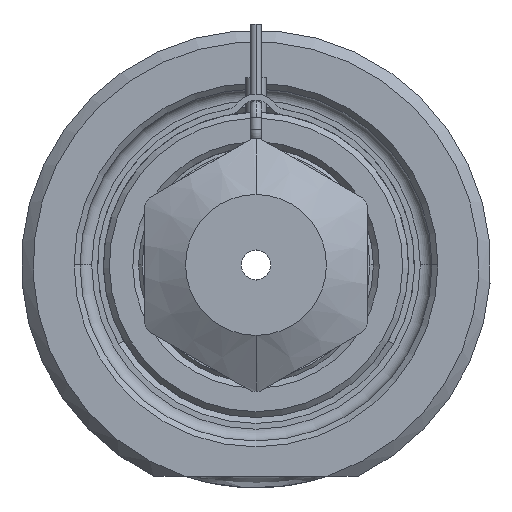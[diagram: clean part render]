
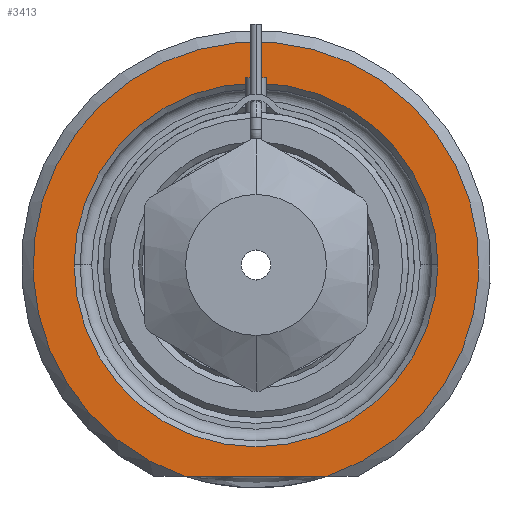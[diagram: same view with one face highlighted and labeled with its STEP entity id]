
A CAD part, front view. The second image highlights one B-rep face of the part: STEP entity #3413.
In plain terms, the highlighted planar face has unit normal (0, -1, 0).
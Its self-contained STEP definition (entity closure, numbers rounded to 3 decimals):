
#1=DIRECTION('',(1.,0.,0.));
#2=VECTOR('',#1,12.166);
#3=CARTESIAN_POINT('',(-6.083,0.,-18.));
#4=LINE('',#3,#2);
#5=CARTESIAN_POINT('',(0.,0.,0.));
#6=DIRECTION('',(0.,1.,0.));
#7=DIRECTION('',(-1.,0.,0.));
#8=AXIS2_PLACEMENT_3D('',#5,#6,#7);
#10=CARTESIAN_POINT('',(0.,0.,0.));
#11=DIRECTION('',(0.,1.,0.));
#12=DIRECTION('',(1.,0.,0.));
#13=AXIS2_PLACEMENT_3D('',#10,#11,#12);
#264=CARTESIAN_POINT('',(0.,0.,0.));
#265=DIRECTION('',(0.,-1.,0.));
#266=DIRECTION('',(0.32,0.,-0.947));
#267=AXIS2_PLACEMENT_3D('',#264,#265,#266);
#2857=CARTESIAN_POINT('',(-15.5,0.,0.));
#2858=CARTESIAN_POINT('',(15.5,0.,0.));
#2859=VERTEX_POINT('',#2857);
#2860=VERTEX_POINT('',#2858);
#2915=CARTESIAN_POINT('',(-6.083,0.,-18.));
#2916=CARTESIAN_POINT('',(6.083,0.,-18.));
#2917=VERTEX_POINT('',#2915);
#2918=VERTEX_POINT('',#2916);
#3396=CARTESIAN_POINT('',(0.,0.,0.));
#3397=DIRECTION('',(0.,-1.,0.));
#3398=DIRECTION('',(1.,0.,0.));
#3399=AXIS2_PLACEMENT_3D('',#3396,#3397,#3398);
#3400=PLANE('',#3399);
#3402=ORIENTED_EDGE('',*,*,#3401,.F.);
#3404=ORIENTED_EDGE('',*,*,#3403,.F.);
#3405=EDGE_LOOP('',(#3402,#3404));
#3406=FACE_OUTER_BOUND('',#3405,.F.);
#3408=ORIENTED_EDGE('',*,*,#3407,.F.);
#3410=ORIENTED_EDGE('',*,*,#3409,.F.);
#3411=EDGE_LOOP('',(#3408,#3410));
#3412=FACE_BOUND('',#3411,.F.);
#3413=ADVANCED_FACE('',(#3406,#3412),#3400,.T.);
#9=CIRCLE('',#8,15.5);
#14=CIRCLE('',#13,15.5);
#268=CIRCLE('',#267,19.);
#3401=EDGE_CURVE('',#2917,#2918,#4,.T.);
#3403=EDGE_CURVE('',#2918,#2917,#268,.T.);
#3407=EDGE_CURVE('',#2859,#2860,#9,.T.);
#3409=EDGE_CURVE('',#2860,#2859,#14,.T.);
